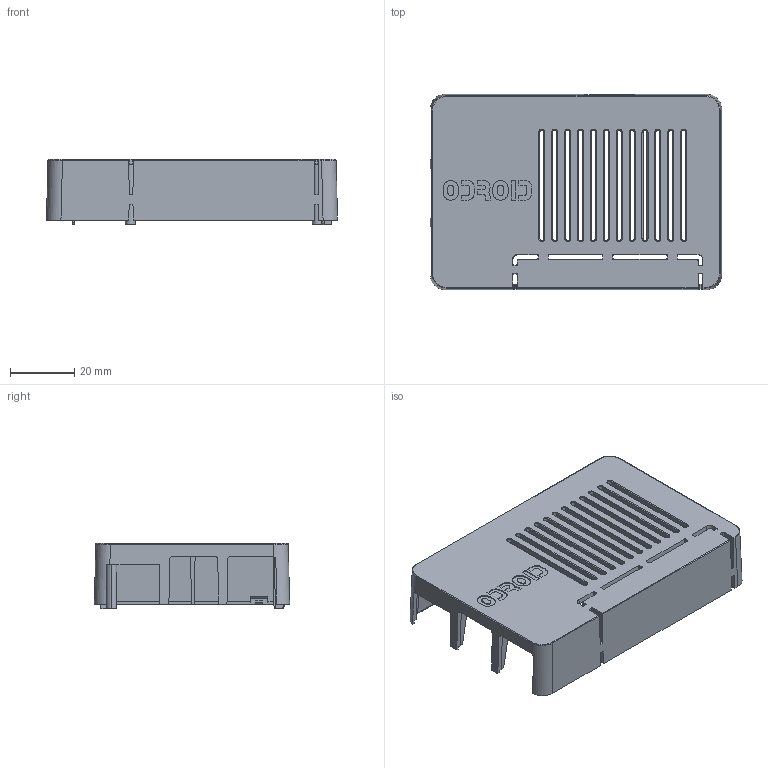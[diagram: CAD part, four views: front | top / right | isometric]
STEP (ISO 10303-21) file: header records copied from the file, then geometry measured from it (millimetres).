
FILE_DESCRIPTION (( 'STEP AP214' ), '1' );
FILE_NAME ('CASE_4_TOP_COVER.STEP', '2015-07-20T08:05:07', ( '' ), ( '' ), 'SwSTEP 2.0', 'SolidWorks 2013', '' );
FILE_SCHEMA (( 'AUTOMOTIVE_DESIGN' ));
Length unit declared in the file: millimetre
Products named in the file (1): CASE_4_TOP_COVER
Bounding box: 90.3 x 60.6 x 20.2 mm (x, y, z)
Volume: 13746.3 mm3; surface area: 21027.6 mm2
Topology: 1 solids, 1 shells, 460 faces, 1334 edges, 882 vertices
Faces by surface type: plane 258, cylinder 91, bspline 53, cone 34, torus 24
Entity records: 15884 total; most frequent: CARTESIAN_POINT 4132, ORIENTED_EDGE 2668, DIRECTION 2006, EDGE_CURVE 1334, VECTOR 882, LINE 882, VERTEX_POINT 882, AXIS2_PLACEMENT_3D 562
